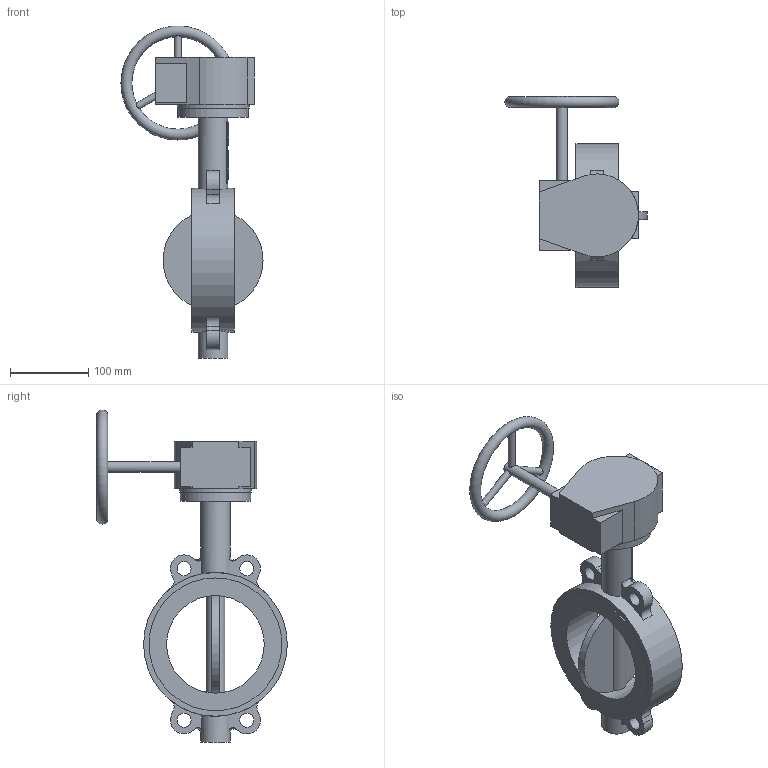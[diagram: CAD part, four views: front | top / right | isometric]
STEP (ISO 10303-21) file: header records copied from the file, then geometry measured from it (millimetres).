
FILE_DESCRIPTION(('STEP AP203'), '1');
FILE_NAME('青蜮铕 015WDN125 疱潴牝铕', '', ('UNSPECIFIED'), ('UNSPECIFIED'), 'ASCON STEP Converter 1.6', 'ASCON Math Kernel', '');
FILE_SCHEMA(('CONFIG_CONTROL_DESIGN'));
Length unit declared in the file: millimetre
Bounding box: 181.99 x 244 x 424.98 mm (x, y, z)
Volume: 800033.6 mm3; surface area: 237654.1 mm2
Topology: 1 solids, 2 shells, 685 faces, 2001 edges, 1288 vertices
Faces by surface type: cylinder 475, plane 203, bspline 6, torus 1
Full cylindrical faces by diameter (mm): 6.7 x4, 9 x3, 10 x4, 14 x1, 18 x4, 18.9 x1, 38 x2, 55 x1, 90 x1, 92 x1, 125 x1, 170 x2, 184 x1
Entity records: 31176 total; most frequent: CARTESIAN_POINT 6741, DIRECTION 4289, ORIENTED_EDGE 3883, EDGE_CURVE 1973, AXIS2_PLACEMENT_3D 1680, VERTEX_POINT 1287, CIRCLE 1000, LINE 929
